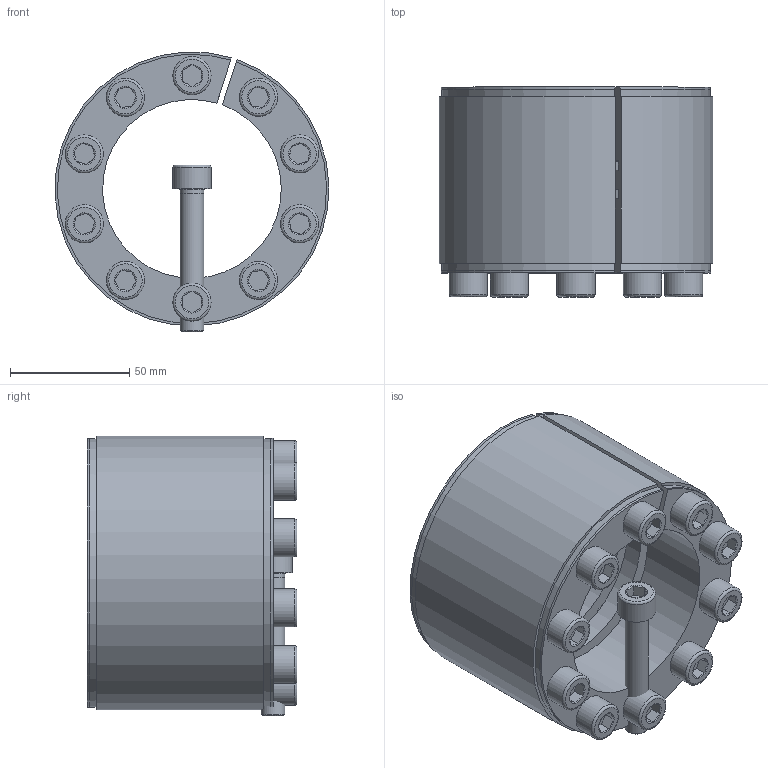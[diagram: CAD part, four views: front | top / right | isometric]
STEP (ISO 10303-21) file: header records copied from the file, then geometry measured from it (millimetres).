
FILE_DESCRIPTION( ( 'Unknown' ), '1' );
FILE_NAME( 'C:/Dokumente und Einstellungen/Sven/Desktop/homepage/cad - homepage/KBS11/KBS 11 - 75 x 115.stp', 'Unknown', ( 'Unknown' ), ( 'Unknown' ), 'XStep 1.0', 'Unknown', ' ' );
FILE_SCHEMA( ( 'automotive_design' ) );
Length unit declared in the file: millimetre
Products named in the file (3): Assem1; KBS 11 - 75 x 115; ISO EN DIN 4762 M10x60
Bounding box: 114.93 x 88 x 117.42 mm (x, y, z)
Volume: 804402.4 mm3; surface area: 227041.6 mm2
Topology: 13 solids, 13 shells, 375 faces, 801 edges, 496 vertices
Faces by surface type: plane 152, cylinder 116, cone 85, torus 22
Full cylindrical faces by diameter (mm): 9 x11, 10 x82, 16 x11
Entity records: 2738 total; most frequent: CARTESIAN_POINT 425, DIRECTION 404, ORIENTED_EDGE 298, AXIS2_PLACEMENT_3D 182, EDGE_LOOP 176, EDGE_CURVE 149, VERTEX_POINT 119, FACE_OUTER_BOUND 111
